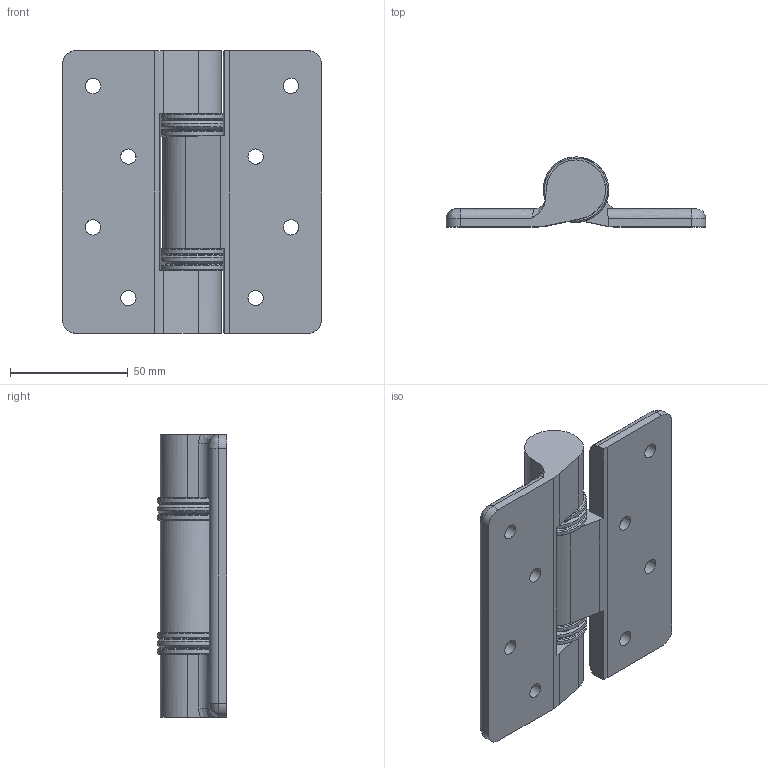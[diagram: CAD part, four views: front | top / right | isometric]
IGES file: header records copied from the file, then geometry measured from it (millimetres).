
Global section: file name: DR_HS120110; native system: Autodesk Inventor 2015; preprocessor: unknown; author: user; date: 20200601.095956; units: millimetre
Bounding box: 110 x 29.6 x 120 mm (x, y, z)
Volume: 136792.3 mm3; surface area: 44522.4 mm2
Topology: 8 solids, 8 shells, 189 faces, 659 edges, 404 vertices
Faces by surface type: bspline 189
